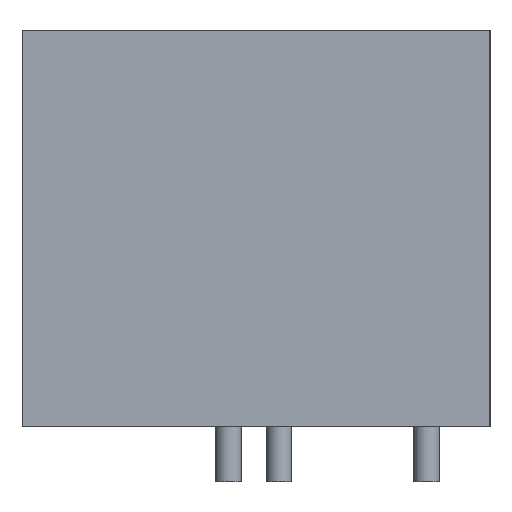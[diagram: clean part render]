
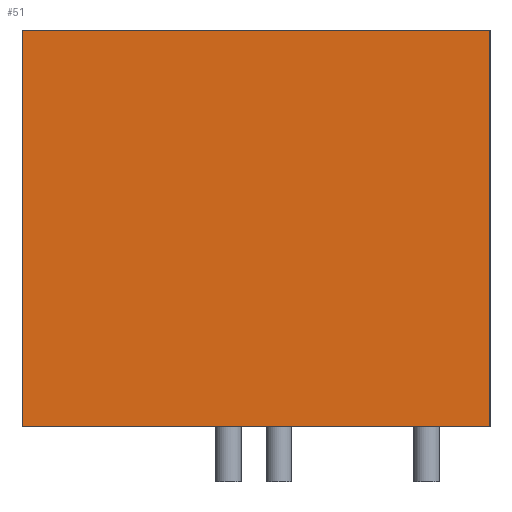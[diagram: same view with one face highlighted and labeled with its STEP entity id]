
A CAD part, left-side view. The second image highlights one B-rep face of the part: STEP entity #51.
In plain terms, the highlighted planar face has unit normal (-1, 0, 0).
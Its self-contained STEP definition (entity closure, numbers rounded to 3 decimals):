
#51 = ADVANCED_FACE('',(#52),#66,.F.);
#52 = FACE_BOUND('',#53,.F.);
#53 = EDGE_LOOP('',(#54,#89,#117,#145));
#54 = ORIENTED_EDGE('',*,*,#55,.F.);
#55 = EDGE_CURVE('',#56,#58,#60,.T.);
#56 = VERTEX_POINT('',#57);
#57 = CARTESIAN_POINT('',(-3.6,-14.2,0.));
#58 = VERTEX_POINT('',#59);
#59 = CARTESIAN_POINT('',(-3.6,-14.2,21.5));
#60 = SURFACE_CURVE('',#61,(#65,#77),.PCURVE_S1.);
#61 = LINE('',#62,#63);
#62 = CARTESIAN_POINT('',(-3.6,-14.2,0.));
#63 = VECTOR('',#64,1.);
#64 = DIRECTION('',(0.,0.,1.));
#65 = PCURVE('',#66,#71);
#66 = PLANE('',#67);
#67 = AXIS2_PLACEMENT_3D('',#68,#69,#70);
#68 = CARTESIAN_POINT('',(-3.6,-14.2,0.));
#69 = DIRECTION('',(1.,0.,-0.));
#70 = DIRECTION('',(0.,0.,1.));
#71 = DEFINITIONAL_REPRESENTATION('',(#72),#76);
#72 = LINE('',#73,#74);
#73 = CARTESIAN_POINT('',(0.,0.));
#74 = VECTOR('',#75,1.);
#75 = DIRECTION('',(1.,0.));
#76 = ( GEOMETRIC_REPRESENTATION_CONTEXT(2) 
PARAMETRIC_REPRESENTATION_CONTEXT() REPRESENTATION_CONTEXT('2D SPACE',''
  ) );
#77 = PCURVE('',#78,#83);
#78 = PLANE('',#79);
#79 = AXIS2_PLACEMENT_3D('',#80,#81,#82);
#80 = CARTESIAN_POINT('',(-3.6,-14.2,0.));
#81 = DIRECTION('',(-0.,1.,0.));
#82 = DIRECTION('',(0.,0.,1.));
#83 = DEFINITIONAL_REPRESENTATION('',(#84),#88);
#84 = LINE('',#85,#86);
#85 = CARTESIAN_POINT('',(0.,0.));
#86 = VECTOR('',#87,1.);
#87 = DIRECTION('',(1.,0.));
#88 = ( GEOMETRIC_REPRESENTATION_CONTEXT(2) 
PARAMETRIC_REPRESENTATION_CONTEXT() REPRESENTATION_CONTEXT('2D SPACE',''
  ) );
#89 = ORIENTED_EDGE('',*,*,#90,.T.);
#90 = EDGE_CURVE('',#56,#91,#93,.T.);
#91 = VERTEX_POINT('',#92);
#92 = CARTESIAN_POINT('',(-3.6,11.2,0.));
#93 = SURFACE_CURVE('',#94,(#98,#105),.PCURVE_S1.);
#94 = LINE('',#95,#96);
#95 = CARTESIAN_POINT('',(-3.6,-14.2,0.));
#96 = VECTOR('',#97,1.);
#97 = DIRECTION('',(-0.,1.,0.));
#98 = PCURVE('',#66,#99);
#99 = DEFINITIONAL_REPRESENTATION('',(#100),#104);
#100 = LINE('',#101,#102);
#101 = CARTESIAN_POINT('',(0.,0.));
#102 = VECTOR('',#103,1.);
#103 = DIRECTION('',(0.,-1.));
#104 = ( GEOMETRIC_REPRESENTATION_CONTEXT(2) 
PARAMETRIC_REPRESENTATION_CONTEXT() REPRESENTATION_CONTEXT('2D SPACE',''
  ) );
#105 = PCURVE('',#106,#111);
#106 = PLANE('',#107);
#107 = AXIS2_PLACEMENT_3D('',#108,#109,#110);
#108 = CARTESIAN_POINT('',(-3.6,-14.2,0.));
#109 = DIRECTION('',(0.,0.,1.));
#110 = DIRECTION('',(1.,0.,-0.));
#111 = DEFINITIONAL_REPRESENTATION('',(#112),#116);
#112 = LINE('',#113,#114);
#113 = CARTESIAN_POINT('',(0.,0.));
#114 = VECTOR('',#115,1.);
#115 = DIRECTION('',(0.,1.));
#116 = ( GEOMETRIC_REPRESENTATION_CONTEXT(2) 
PARAMETRIC_REPRESENTATION_CONTEXT() REPRESENTATION_CONTEXT('2D SPACE',''
  ) );
#117 = ORIENTED_EDGE('',*,*,#118,.T.);
#118 = EDGE_CURVE('',#91,#119,#121,.T.);
#119 = VERTEX_POINT('',#120);
#120 = CARTESIAN_POINT('',(-3.6,11.2,21.5));
#121 = SURFACE_CURVE('',#122,(#126,#133),.PCURVE_S1.);
#122 = LINE('',#123,#124);
#123 = CARTESIAN_POINT('',(-3.6,11.2,0.));
#124 = VECTOR('',#125,1.);
#125 = DIRECTION('',(0.,0.,1.));
#126 = PCURVE('',#66,#127);
#127 = DEFINITIONAL_REPRESENTATION('',(#128),#132);
#128 = LINE('',#129,#130);
#129 = CARTESIAN_POINT('',(0.,-25.4));
#130 = VECTOR('',#131,1.);
#131 = DIRECTION('',(1.,0.));
#132 = ( GEOMETRIC_REPRESENTATION_CONTEXT(2) 
PARAMETRIC_REPRESENTATION_CONTEXT() REPRESENTATION_CONTEXT('2D SPACE',''
  ) );
#133 = PCURVE('',#134,#139);
#134 = PLANE('',#135);
#135 = AXIS2_PLACEMENT_3D('',#136,#137,#138);
#136 = CARTESIAN_POINT('',(-3.6,11.2,0.));
#137 = DIRECTION('',(-0.,1.,0.));
#138 = DIRECTION('',(0.,0.,1.));
#139 = DEFINITIONAL_REPRESENTATION('',(#140),#144);
#140 = LINE('',#141,#142);
#141 = CARTESIAN_POINT('',(0.,0.));
#142 = VECTOR('',#143,1.);
#143 = DIRECTION('',(1.,0.));
#144 = ( GEOMETRIC_REPRESENTATION_CONTEXT(2) 
PARAMETRIC_REPRESENTATION_CONTEXT() REPRESENTATION_CONTEXT('2D SPACE',''
  ) );
#145 = ORIENTED_EDGE('',*,*,#146,.F.);
#146 = EDGE_CURVE('',#58,#119,#147,.T.);
#147 = SURFACE_CURVE('',#148,(#152,#159),.PCURVE_S1.);
#148 = LINE('',#149,#150);
#149 = CARTESIAN_POINT('',(-3.6,-14.2,21.5));
#150 = VECTOR('',#151,1.);
#151 = DIRECTION('',(-0.,1.,0.));
#152 = PCURVE('',#66,#153);
#153 = DEFINITIONAL_REPRESENTATION('',(#154),#158);
#154 = LINE('',#155,#156);
#155 = CARTESIAN_POINT('',(21.5,0.));
#156 = VECTOR('',#157,1.);
#157 = DIRECTION('',(0.,-1.));
#158 = ( GEOMETRIC_REPRESENTATION_CONTEXT(2) 
PARAMETRIC_REPRESENTATION_CONTEXT() REPRESENTATION_CONTEXT('2D SPACE',''
  ) );
#159 = PCURVE('',#160,#165);
#160 = PLANE('',#161);
#161 = AXIS2_PLACEMENT_3D('',#162,#163,#164);
#162 = CARTESIAN_POINT('',(-3.6,-14.2,21.5));
#163 = DIRECTION('',(0.,0.,1.));
#164 = DIRECTION('',(1.,0.,-0.));
#165 = DEFINITIONAL_REPRESENTATION('',(#166),#170);
#166 = LINE('',#167,#168);
#167 = CARTESIAN_POINT('',(0.,0.));
#168 = VECTOR('',#169,1.);
#169 = DIRECTION('',(0.,1.));
#170 = ( GEOMETRIC_REPRESENTATION_CONTEXT(2) 
PARAMETRIC_REPRESENTATION_CONTEXT() REPRESENTATION_CONTEXT('2D SPACE',''
  ) );
